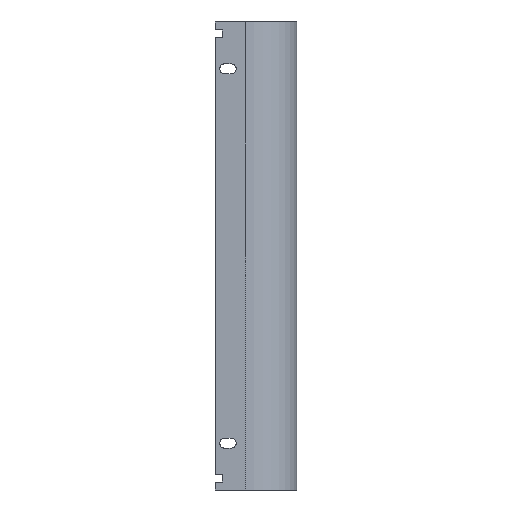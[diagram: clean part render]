
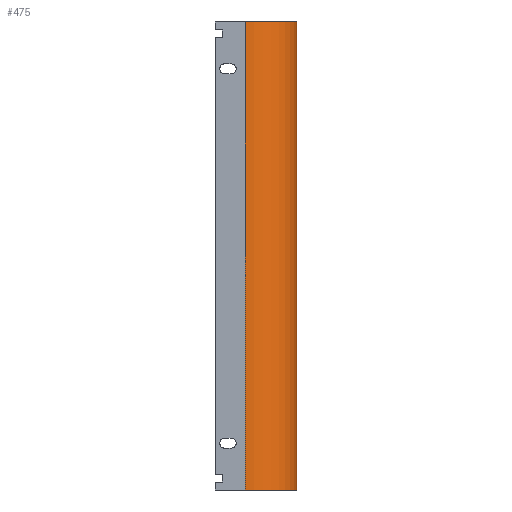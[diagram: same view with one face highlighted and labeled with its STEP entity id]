
A CAD part, left-side view. The second image highlights one B-rep face of the part: STEP entity #475.
In plain terms, the highlighted cylindrical face has radius 22 mm (diameter 44 mm), a partial arc.
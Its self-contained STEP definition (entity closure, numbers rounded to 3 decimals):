
#2 = LINE ( 'NONE', #1501, #1218 ) ;
#102 = EDGE_CURVE ( 'NONE', #1970, #1635, #1697, .T. ) ;
#146 = DIRECTION ( 'NONE',  ( -1., 0., 0. ) ) ;
#308 = DIRECTION ( 'NONE',  ( 0., 0., -1. ) ) ;
#316 = CARTESIAN_POINT ( 'NONE',  ( -88., -65., -100. ) ) ;
#320 = CARTESIAN_POINT ( 'NONE',  ( -110., -43., -100. ) ) ;
#353 = VECTOR ( 'NONE', #2409, 1000. ) ;
#387 = EDGE_CURVE ( 'NONE', #1980, #1970, #2226, .T. ) ;
#417 = AXIS2_PLACEMENT_3D ( 'NONE', #963, #308, #1831 ) ;
#475 = ADVANCED_FACE ( 'NONE', ( #2674 ), #1607, .T. ) ;
#521 = DIRECTION ( 'NONE',  ( 0., 0., -1. ) ) ;
#539 = CARTESIAN_POINT ( 'NONE',  ( -88., -43., 100. ) ) ;
#591 = CARTESIAN_POINT ( 'NONE',  ( -110., -43., 100. ) ) ;
#644 = CIRCLE ( 'NONE', #417, 22. ) ;
#787 = CARTESIAN_POINT ( 'NONE',  ( -88., -43., -100. ) ) ;
#838 = ORIENTED_EDGE ( 'NONE', *, *, #387, .F. ) ;
#963 = CARTESIAN_POINT ( 'NONE',  ( -88., -43., 100. ) ) ;
#1208 = EDGE_CURVE ( 'NONE', #2556, #1635, #2, .T. ) ;
#1218 = VECTOR ( 'NONE', #2358, 1000. ) ;
#1501 = CARTESIAN_POINT ( 'NONE',  ( -110., -43., 100. ) ) ;
#1539 = EDGE_CURVE ( 'NONE', #1980, #2556, #644, .T. ) ;
#1607 = CYLINDRICAL_SURFACE ( 'NONE', #2768, 22. ) ;
#1635 = VERTEX_POINT ( 'NONE', #320 ) ;
#1697 = CIRCLE ( 'NONE', #1880, 22. ) ;
#1723 = ORIENTED_EDGE ( 'NONE', *, *, #1208, .T. ) ;
#1765 = DIRECTION ( 'NONE',  ( -1., 0., 0. ) ) ;
#1799 = DIRECTION ( 'NONE',  ( 0., 0., -1. ) ) ;
#1831 = DIRECTION ( 'NONE',  ( -1., 0., 0. ) ) ;
#1880 = AXIS2_PLACEMENT_3D ( 'NONE', #787, #521, #146 ) ;
#1970 = VERTEX_POINT ( 'NONE', #316 ) ;
#1980 = VERTEX_POINT ( 'NONE', #2007 ) ;
#2007 = CARTESIAN_POINT ( 'NONE',  ( -88., -65., 100. ) ) ;
#2014 = EDGE_LOOP ( 'NONE', ( #2611, #838, #2382, #1723 ) ) ;
#2226 = LINE ( 'NONE', #2450, #353 ) ;
#2358 = DIRECTION ( 'NONE',  ( 0., 0., -1. ) ) ;
#2382 = ORIENTED_EDGE ( 'NONE', *, *, #1539, .T. ) ;
#2409 = DIRECTION ( 'NONE',  ( 0., 0., -1. ) ) ;
#2450 = CARTESIAN_POINT ( 'NONE',  ( -88., -65., 100. ) ) ;
#2556 = VERTEX_POINT ( 'NONE', #591 ) ;
#2611 = ORIENTED_EDGE ( 'NONE', *, *, #102, .F. ) ;
#2674 = FACE_OUTER_BOUND ( 'NONE', #2014, .T. ) ;
#2768 = AXIS2_PLACEMENT_3D ( 'NONE', #539, #1799, #1765 ) ;
